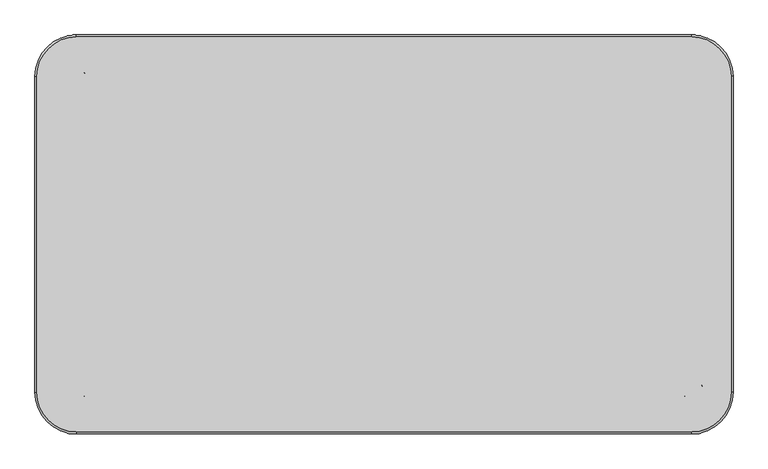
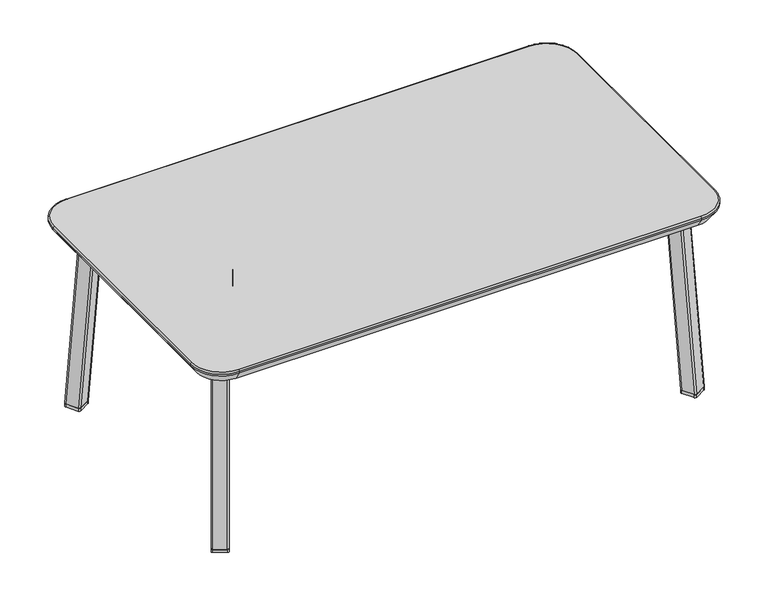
"""IFC4 building model written with IfcOpenShell, lengths in millimetres: furniture geometry, Stance_HC-Jensen-Occasional-Table : JETF244216-T."""

from ifc_helpers import new_model, si_unit, point, frame, frame_2d, origin, origin_with_axes, place, context, project, spatial, polyline, circle_curve, ellipse_curve, trimmed, segment, composite_curve, outline, extrude, source, transform, mapped, element, save
from ifc_brep_helpers import plane_surface, cylinder_surface, revolved_surface, extruded_surface, advanced_brep


def furniture_d7f64a44(model_context):
    return source(origin(), model_context, "Body", "SolidModel", [
        extrude(outline(composite_curve([segment(polyline([(499.481574, -260.4321033), (477.4845247, -273.1321056)]), True, "CONTINUOUS"), segment(trimmed(circle_curve(frame_2d((475.8970247, -270.382475)), 3.175), [point((477.4845247, -273.1321056))], [point((473.147394, -271.969975))], False, "CARTESIAN"), True, "CONTINUOUS"), segment(polyline([(473.147394, -271.969975), (460.3983038, -249.887903)]), True, "CONTINUOUS"), segment(trimmed(circle_curve(frame_2d((463.1479345, -248.300403)), 3.175), [point((460.3983038, -249.887903))], [point((461.5604345, -245.5507723))], False, "CARTESIAN"), True, "CONTINUOUS"), segment(polyline([(461.5604345, -245.5507723), (483.5574838, -232.85077)]), True, "CONTINUOUS"), segment(trimmed(circle_curve(frame_2d((485.1449838, -235.6004007)), 3.175), [point((483.5574838, -232.85077))], [point((487.8946144, -234.0129007))], False, "CARTESIAN"), True, "CONTINUOUS"), segment(polyline([(487.8946144, -234.0129007), (500.6437046, -256.0949726)]), True, "CONTINUOUS"), segment(trimmed(circle_curve(frame_2d((497.894074, -257.6824726)), 3.175), [point((500.6437046, -256.0949726))], [point((499.481574, -260.4321033))], False, "CARTESIAN"), True, "CONTINUOUS")], self_intersect=False)), origin_with_axes(), (0.0, 0.0, 1.0), 6.35),
        extrude(outline(composite_curve([segment(polyline([(477.4845247, 273.1321056), (499.481574, 260.4321033)]), True, "CONTINUOUS"), segment(trimmed(circle_curve(frame_2d((497.894074, 257.6824726)), 3.175), [point((499.481574, 260.4321033))], [point((500.6437046, 256.0949726))], False, "CARTESIAN"), True, "CONTINUOUS"), segment(polyline([(500.6437046, 256.0949726), (487.8946144, 234.0129007)]), True, "CONTINUOUS"), segment(trimmed(circle_curve(frame_2d((485.1449838, 235.6004007)), 3.175), [point((487.8946144, 234.0129007))], [point((483.5574838, 232.85077))], False, "CARTESIAN"), True, "CONTINUOUS"), segment(polyline([(483.5574838, 232.85077), (461.5604345, 245.5507723)]), True, "CONTINUOUS"), segment(trimmed(circle_curve(frame_2d((463.1479345, 248.300403)), 3.175), [point((461.5604345, 245.5507723))], [point((460.3983038, 249.887903))], False, "CARTESIAN"), True, "CONTINUOUS"), segment(polyline([(460.3983038, 249.887903), (473.147394, 271.969975)]), True, "CONTINUOUS"), segment(trimmed(circle_curve(frame_2d((475.8970247, 270.382475)), 3.175), [point((473.147394, 271.969975))], [point((477.4845247, 273.1321056))], False, "CARTESIAN"), True, "CONTINUOUS")], self_intersect=False)), origin_with_axes(), (0.0, 0.0, 1.0), 6.35),
        advanced_brep(
        [(446.7120024, -219.8325373, 380.5094413), (445.5498717, -224.1696679, 380.5094413), (458.2989619, -246.2517399, 380.5094413), (462.6360926, -247.4138706, 380.5094413), (484.6331418, -234.7138683, 380.5094413), (485.7952725, -230.3767376, 380.5094413), (473.0461823, -208.2946656, 380.5094413), (468.7090516, -207.132535, 380.5094413), (461.5604345, -245.5507723, 6.35), (483.5574838, -232.85077, 6.35), (487.8946144, -234.0129007, 6.35), (500.6437046, -256.0949726, 6.35), (499.481574, -260.4321033, 6.35), (477.4845247, -273.1321056, 6.35), (473.147394, -271.969975, 6.35), (460.3983038, -249.887903, 6.35)],
        [
            (0, 1, circle_curve(frame((448.2995024, -222.5821679, 380.5094413), z_axis=(0.0, 0.0, 1.0), x_axis=(-1.0, 0.0, 0.0)), 3.175)),
            (1, 2),
            (2, 3, circle_curve(frame((461.0485926, -244.6642399, 380.5094413), z_axis=(0.0, 0.0, 1.0), x_axis=(-1.0, 0.0, 0.0)), 3.175)),
            (3, 4),
            (4, 5, circle_curve(frame((483.0456418, -231.9642376, 380.5094413), z_axis=(0.0, 0.0, 1.0), x_axis=(-1.0, 0.0, 0.0)), 3.175)),
            (5, 6),
            (6, 7, circle_curve(frame((470.2965516, -209.8821656, 380.5094413), z_axis=(0.0, 0.0, 1.0), x_axis=(-1.0, 0.0, 0.0)), 3.175)),
            (7, 0),
            (8, 9),
            (9, 10, circle_curve(frame((485.1449838, -235.6004007, 6.35), z_axis=(0.0, 0.0, -1.0), x_axis=(-1.0, 0.0, 0.0)), 3.175)),
            (10, 11),
            (11, 12, circle_curve(frame((497.894074, -257.6824726, 6.35), z_axis=(0.0, 0.0, -1.0), x_axis=(-1.0, 0.0, 0.0)), 3.175)),
            (12, 13),
            (13, 14, circle_curve(frame((475.8970247, -270.382475, 6.35), z_axis=(0.0, 0.0, -1.0), x_axis=(-1.0, 0.0, 0.0)), 3.175)),
            (14, 15),
            (15, 8, circle_curve(frame((463.1479345, -248.300403, 6.35), z_axis=(0.0, 0.0, -1.0), x_axis=(-1.0, 0.0, 0.0)), 3.175)),
            (15, 1),
            (0, 8),
            (14, 2),
            (13, 3),
            (12, 4),
            (11, 5),
            (10, 6),
            (9, 7),
        ],
        [
            plane_surface(frame((465.6725721, -227.2732028, 380.5094413), z_axis=(0.0, 0.0, 1.0), x_axis=(0.8660254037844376, 0.5000000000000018, 0.0))),
            plane_surface(frame((480.5210042, -252.9914378, 6.35), z_axis=(0.0, 0.0, -1.0), x_axis=(0.8660254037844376, 0.5000000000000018, 0.0))),
            extruded_surface(trimmed(circle_curve(frame((448.2995024, -222.5821679, 380.5094413), z_axis=(0.0, 0.0, -1.0), x_axis=(-1.0, 0.0, 0.0)), 3.175), [point((445.5498717, -224.1696679, 380.5094413))], [point((446.7120024, -219.8325373, 380.5094413))], True, "CARTESIAN"), (14.848432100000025, -25.718235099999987, -374.15944129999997), 375.3361041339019),
            plane_surface(frame((466.7728489, -260.928939, 6.35), z_axis=(-0.8660254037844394, -0.49999999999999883, -5.114262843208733e-09), x_axis=(-0.49999999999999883, 0.8660254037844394, 0.0))),
            extruded_surface(trimmed(circle_curve(frame((461.0485926, -244.6642399, 380.5094413), z_axis=(0.0, 0.0, -1.0), x_axis=(-1.0, 0.0, 0.0)), 3.175), [point((462.6360926, -247.4138706, 380.5094413))], [point((458.2989619, -246.2517399, 380.5094413))], True, "CARTESIAN"), (14.848432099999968, -25.718235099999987, -374.15944129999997), 375.3361041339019),
            plane_surface(frame((488.4830493, -266.7821045, 6.35), z_axis=(0.49843252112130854, -0.8633104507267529, 0.0791207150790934), x_axis=(-0.8660254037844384, -0.5000000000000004, 0.0))),
            extruded_surface(trimmed(circle_curve(frame((483.0456418, -231.9642376, 380.5094413), z_axis=(0.0, 0.0, -1.0), x_axis=(-1.0, 0.0, 0.0)), 3.175), [point((485.7952725, -230.3767376, 380.5094413))], [point((484.6331418, -234.7138683, 380.5094413))], True, "CARTESIAN"), (14.84843219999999, -25.718234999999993, -374.15944129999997), 375.3361041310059),
            plane_surface(frame((494.2691595, -245.0539367, 6.35), z_axis=(0.8660254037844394, 0.4999999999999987, 5.114262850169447e-09), x_axis=(0.4999999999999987, -0.8660254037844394, 0.0))),
            extruded_surface(trimmed(circle_curve(frame((470.2965516, -209.8821656, 380.5094413), z_axis=(0.0, 0.0, -1.0), x_axis=(-1.0, 0.0, 0.0)), 3.175), [point((468.7090516, -207.132535, 380.5094413))], [point((473.0461823, -208.2946656, 380.5094413))], True, "CARTESIAN"), (14.84843219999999, -25.718235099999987, -374.15944129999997), 375.336104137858),
            plane_surface(frame((472.5589591, -239.2007712, 6.35), z_axis=(-0.49843252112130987, 0.8633104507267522, -0.07912071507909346), x_axis=(0.8660254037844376, 0.5000000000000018, 0.0))),
        ],
        [
            (0, [[1, 2, 3, 4, 5, 6, 7, 8]]),
            (1, [[9, 10, 11, 12, 13, 14, 15, 16]]),
            (2, [[17, -1, 18, -16]]),
            (3, [[19, -2, -17, -15]]),
            (4, [[20, -3, -19, -14]]),
            (5, [[21, -4, -20, -13]]),
            (6, [[22, -5, -21, -12]]),
            (7, [[23, -6, -22, -11]]),
            (8, [[24, -7, -23, -10]]),
            (9, [[-18, -8, -24, -9]]),
        ],
    ),
        extrude(outline(polyline([(505.5820372, 251.9484113), (360.0453703, 0.0), (505.5820372, -251.9484113), (467.1068508, -274.1733992), (308.7320372, 0.0), (467.1068508, 274.1733992), (505.5820372, 251.9484113)])), frame((0.0, 0.0, 380.5094413), z_axis=(0.0, 0.0, 1.0), x_axis=(1.0, 0.0, 0.0)), (0.0, 0.0, 1.0), 3.1749879),
        advanced_brep(
        [(446.7120024, 219.8325373, 380.5094413), (468.7090516, 207.132535, 380.5094413), (473.0461823, 208.2946656, 380.5094413), (485.7952725, 230.3767376, 380.5094413), (484.6331418, 234.7138683, 380.5094413), (462.6360926, 247.4138706, 380.5094413), (458.2989619, 246.2517399, 380.5094413), (445.5498717, 224.1696679, 380.5094413), (461.5604345, 245.5507723, 6.35), (460.3983038, 249.887903, 6.35), (473.147394, 271.969975, 6.35), (477.4845247, 273.1321056, 6.35), (499.481574, 260.4321033, 6.35), (500.6437046, 256.0949726, 6.35), (487.8946144, 234.0129007, 6.35), (483.5574838, 232.85077, 6.35)],
        [
            (0, 1),
            (1, 2, circle_curve(frame((470.2965516, 209.8821656, 380.5094413), z_axis=(0.0, 0.0, 1.0), x_axis=(-1.0, 0.0, 0.0)), 3.175)),
            (2, 3),
            (3, 4, circle_curve(frame((483.0456418, 231.9642376, 380.5094413), z_axis=(0.0, 0.0, 1.0), x_axis=(-1.0, 0.0, 0.0)), 3.175)),
            (4, 5),
            (5, 6, circle_curve(frame((461.0485926, 244.6642399, 380.5094413), z_axis=(0.0, 0.0, 1.0), x_axis=(-1.0, 0.0, 0.0)), 3.175)),
            (6, 7),
            (7, 0, circle_curve(frame((448.2995024, 222.5821679, 380.5094413), z_axis=(0.0, 0.0, 1.0), x_axis=(-1.0, 0.0, 0.0)), 3.175)),
            (8, 9, circle_curve(frame((463.1479345, 248.300403, 6.35), z_axis=(0.0, 0.0, -1.0), x_axis=(-1.0, 0.0, 0.0)), 3.175)),
            (9, 10),
            (10, 11, circle_curve(frame((475.8970247, 270.382475, 6.35), z_axis=(0.0, 0.0, -1.0), x_axis=(-1.0, 0.0, 0.0)), 3.175)),
            (11, 12),
            (12, 13, circle_curve(frame((497.894074, 257.6824726, 6.35), z_axis=(0.0, 0.0, -1.0), x_axis=(-1.0, 0.0, 0.0)), 3.175)),
            (13, 14),
            (14, 15, circle_curve(frame((485.1449838, 235.6004007, 6.35), z_axis=(0.0, 0.0, -1.0), x_axis=(-1.0, 0.0, 0.0)), 3.175)),
            (15, 8),
            (8, 0),
            (7, 9),
            (6, 10),
            (5, 11),
            (4, 12),
            (3, 13),
            (2, 14),
            (1, 15),
        ],
        [
            plane_surface(frame((465.6725721, 227.2732028, 380.5094413), z_axis=(0.0, 0.0, 1.0), x_axis=(-0.8660254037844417, 0.49999999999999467, 0.0))),
            plane_surface(frame((480.5210042, 252.9914378, 6.35), z_axis=(0.0, 0.0, -1.0), x_axis=(-0.8660254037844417, 0.49999999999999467, 0.0))),
            extruded_surface(trimmed(circle_curve(frame((448.2995024, 222.5821679, 380.5094413), z_axis=(0.0, 0.0, -1.0), x_axis=(-1.0, 0.0, 0.0)), 3.175), [point((446.7120024, 219.8325373, 380.5094413))], [point((445.5498717, 224.1696679, 380.5094413))], True, "CARTESIAN"), (14.848432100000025, 25.718235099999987, -374.15944129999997), 375.3361041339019),
            plane_surface(frame((466.7728489, 260.928939, 6.35), z_axis=(-0.8660254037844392, 0.49999999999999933, -5.114262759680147e-09), x_axis=(0.49999999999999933, 0.8660254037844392, 0.0))),
            extruded_surface(trimmed(circle_curve(frame((461.0485926, 244.6642399, 380.5094413), z_axis=(0.0, 0.0, -1.0), x_axis=(-1.0, 0.0, 0.0)), 3.175), [point((458.2989619, 246.2517399, 380.5094413))], [point((462.6360926, 247.4138706, 380.5094413))], True, "CARTESIAN"), (14.848432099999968, 25.718235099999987, -374.15944129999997), 375.3361041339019),
            plane_surface(frame((488.4830493, 266.7821045, 6.35), z_axis=(0.4984325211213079, 0.8633104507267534, 0.07912071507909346), x_axis=(0.8660254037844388, -0.49999999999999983, 0.0))),
            extruded_surface(trimmed(circle_curve(frame((483.0456418, 231.9642376, 380.5094413), z_axis=(0.0, 0.0, -1.0), x_axis=(-1.0, 0.0, 0.0)), 3.175), [point((484.6331418, 234.7138683, 380.5094413))], [point((485.7952725, 230.3767376, 380.5094413))], True, "CARTESIAN"), (14.84843219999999, 25.718234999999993, -374.15944129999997), 375.3361041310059),
            plane_surface(frame((494.2691595, 245.0539367, 6.35), z_axis=(0.8660254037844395, -0.49999999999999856, 5.1142629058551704e-09), x_axis=(-0.49999999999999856, -0.8660254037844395, 0.0))),
            extruded_surface(trimmed(circle_curve(frame((470.2965516, 209.8821656, 380.5094413), z_axis=(0.0, 0.0, -1.0), x_axis=(-1.0, 0.0, 0.0)), 3.175), [point((473.0461823, 208.2946656, 380.5094413))], [point((468.7090516, 207.132535, 380.5094413))], True, "CARTESIAN"), (14.84843219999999, 25.718235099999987, -374.15944129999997), 375.336104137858),
            plane_surface(frame((472.5589591, 239.2007712, 6.35), z_axis=(-0.49843252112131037, -0.863310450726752, -0.07912071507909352), x_axis=(-0.8660254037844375, 0.5000000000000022, 0.0))),
        ],
        [
            (0, [[1, 2, 3, 4, 5, 6, 7, 8]]),
            (1, [[9, 10, 11, 12, 13, 14, 15, 16]]),
            (2, [[17, -8, 18, -9]]),
            (3, [[-18, -7, 19, -10]]),
            (4, [[-19, -6, 20, -11]]),
            (5, [[-20, -5, 21, -12]]),
            (6, [[-21, -4, 22, -13]]),
            (7, [[-22, -3, 23, -14]]),
            (8, [[-23, -2, 24, -15]]),
            (9, [[-24, -1, -17, -16]]),
        ],
    ),
        extrude(outline(composite_curve([segment(trimmed(circle_curve(frame_2d((-496.490244, -257.6824726)), 3.175), [point((-498.077744, -260.4321033))], [point((-499.2398747, -256.0949726))], False, "CARTESIAN"), True, "CONTINUOUS"), segment(polyline([(-499.2398747, -256.0949726), (-486.4907845, -234.0129007)]), True, "CONTINUOUS"), segment(trimmed(circle_curve(frame_2d((-483.7411538, -235.6004007)), 3.175), [point((-486.4907845, -234.0129007))], [point((-482.1536538, -232.85077))], False, "CARTESIAN"), True, "CONTINUOUS"), segment(polyline([(-482.1536538, -232.85077), (-460.1566046, -245.5507723)]), True, "CONTINUOUS"), segment(trimmed(circle_curve(frame_2d((-461.7441046, -248.300403)), 3.175), [point((-460.1566046, -245.5507723))], [point((-458.9944739, -249.887903))], False, "CARTESIAN"), True, "CONTINUOUS"), segment(polyline([(-458.9944739, -249.887903), (-471.7435641, -271.969975)]), True, "CONTINUOUS"), segment(trimmed(circle_curve(frame_2d((-474.4931948, -270.382475)), 3.175), [point((-471.7435641, -271.969975))], [point((-476.0806948, -273.1321056))], False, "CARTESIAN"), True, "CONTINUOUS"), segment(polyline([(-476.0806948, -273.1321056), (-498.077744, -260.4321033)]), True, "CONTINUOUS")], self_intersect=False)), origin_with_axes(), (0.0, 0.0, 1.0), 6.35),
        extrude(outline(composite_curve([segment(trimmed(circle_curve(frame_2d((-474.4931948, 270.382475)), 3.175), [point((-476.0806948, 273.1321056))], [point((-471.7435641, 271.969975))], False, "CARTESIAN"), True, "CONTINUOUS"), segment(polyline([(-471.7435641, 271.969975), (-458.9944739, 249.887903)]), True, "CONTINUOUS"), segment(trimmed(circle_curve(frame_2d((-461.7441046, 248.300403)), 3.175), [point((-458.9944739, 249.887903))], [point((-460.1566046, 245.5507723))], False, "CARTESIAN"), True, "CONTINUOUS"), segment(polyline([(-460.1566046, 245.5507723), (-482.1536538, 232.85077)]), True, "CONTINUOUS"), segment(trimmed(circle_curve(frame_2d((-483.7411538, 235.6004007)), 3.175), [point((-482.1536538, 232.85077))], [point((-486.4907845, 234.0129007))], False, "CARTESIAN"), True, "CONTINUOUS"), segment(polyline([(-486.4907845, 234.0129007), (-499.2398747, 256.0949726)]), True, "CONTINUOUS"), segment(trimmed(circle_curve(frame_2d((-496.490244, 257.6824726)), 3.175), [point((-499.2398747, 256.0949726))], [point((-498.077744, 260.4321033))], False, "CARTESIAN"), True, "CONTINUOUS"), segment(polyline([(-498.077744, 260.4321033), (-476.0806948, 273.1321056)]), True, "CONTINUOUS")], self_intersect=False)), origin_with_axes(), (0.0, 0.0, 1.0), 6.35),
        advanced_brep(
        [(-445.3081724, -219.8325373, 380.5094413), (-467.3052217, -207.132535, 380.5094413), (-471.6423524, -208.2946656, 380.5094413), (-484.3914426, -230.3767376, 380.5094413), (-483.2293119, -234.7138683, 380.5094413), (-461.2322626, -247.4138706, 380.5094413), (-456.895132, -246.2517399, 380.5094413), (-444.1460418, -224.1696679, 380.5094413), (-460.1566046, -245.5507723, 6.35), (-458.9944739, -249.887903, 6.35), (-471.7435641, -271.969975, 6.35), (-476.0806948, -273.1321056, 6.35), (-498.077744, -260.4321033, 6.35), (-499.2398747, -256.0949726, 6.35), (-486.4907845, -234.0129007, 6.35), (-482.1536538, -232.85077, 6.35)],
        [
            (0, 1),
            (1, 2, circle_curve(frame((-468.8927217, -209.8821656, 380.5094413), z_axis=(0.0, 0.0, 1.0), x_axis=(1.0, 0.0, 0.0)), 3.175)),
            (2, 3),
            (3, 4, circle_curve(frame((-481.6418119, -231.9642376, 380.5094413), z_axis=(0.0, 0.0, 1.0), x_axis=(1.0, 0.0, 0.0)), 3.175)),
            (4, 5),
            (5, 6, circle_curve(frame((-459.6447626, -244.6642399, 380.5094413), z_axis=(0.0, 0.0, 1.0), x_axis=(1.0, 0.0, 0.0)), 3.175)),
            (6, 7),
            (7, 0, circle_curve(frame((-446.8956724, -222.5821679, 380.5094413), z_axis=(0.0, 0.0, 1.0), x_axis=(1.0, 0.0, 0.0)), 3.175)),
            (8, 9, circle_curve(frame((-461.7441046, -248.300403, 6.35), z_axis=(0.0, 0.0, -1.0), x_axis=(1.0, 0.0, 0.0)), 3.175)),
            (9, 10),
            (10, 11, circle_curve(frame((-474.4931948, -270.382475, 6.35), z_axis=(0.0, 0.0, -1.0), x_axis=(1.0, 0.0, 0.0)), 3.175)),
            (11, 12),
            (12, 13, circle_curve(frame((-496.490244, -257.6824726, 6.35), z_axis=(0.0, 0.0, -1.0), x_axis=(1.0, 0.0, 0.0)), 3.175)),
            (13, 14),
            (14, 15, circle_curve(frame((-483.7411538, -235.6004007, 6.35), z_axis=(0.0, 0.0, -1.0), x_axis=(1.0, 0.0, 0.0)), 3.175)),
            (15, 8),
            (8, 0),
            (7, 9),
            (6, 10),
            (5, 11),
            (4, 12),
            (3, 13),
            (2, 14),
            (1, 15),
        ],
        [
            plane_surface(frame((-464.2687422, -227.2732028, 380.5094413), z_axis=(0.0, 0.0, 1.0), x_axis=(-0.8660254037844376, 0.5000000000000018, 0.0))),
            plane_surface(frame((-479.1171743, -252.9914378, 6.35), z_axis=(0.0, 0.0, -1.0), x_axis=(-0.8660254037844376, 0.5000000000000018, 0.0))),
            extruded_surface(trimmed(circle_curve(frame((-461.7441046, -248.300403, 6.35), z_axis=(0.0, 0.0, 1.0), x_axis=(1.0, 0.0, 0.0)), 3.175), [point((-458.9944739, -249.887903, 6.35))], [point((-460.1566046, -245.5507723, 6.35))], True, "CARTESIAN"), (14.84843219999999, 25.718235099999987, 374.15944129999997), 375.336104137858),
            plane_surface(frame((-465.369019, -260.928939, 6.35), z_axis=(0.8660254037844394, -0.49999999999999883, -5.114262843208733e-09), x_axis=(0.49999999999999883, 0.8660254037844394, 0.0))),
            extruded_surface(trimmed(circle_curve(frame((-474.4931948, -270.382475, 6.35), z_axis=(0.0, 0.0, 1.0), x_axis=(1.0, 0.0, 0.0)), 3.175), [point((-476.0806948, -273.1321056, 6.35))], [point((-471.7435641, -271.969975, 6.35))], True, "CARTESIAN"), (14.848432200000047, 25.718235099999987, 374.15944129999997), 375.336104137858),
            plane_surface(frame((-487.0792194, -266.7821045, 6.35), z_axis=(-0.49843252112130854, -0.8633104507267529, 0.0791207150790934), x_axis=(0.8660254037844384, -0.5000000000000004, 0.0))),
            extruded_surface(trimmed(circle_curve(frame((-496.490244, -257.6824726, 6.35), z_axis=(0.0, 0.0, 1.0), x_axis=(1.0, 0.0, 0.0)), 3.175), [point((-499.2398747, -256.0949726, 6.35))], [point((-498.077744, -260.4321033, 6.35))], True, "CARTESIAN"), (14.848432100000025, 25.718234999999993, 374.15944129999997), 375.3361041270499),
            plane_surface(frame((-492.8653296, -245.0539367, 6.35), z_axis=(-0.8660254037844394, 0.4999999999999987, 5.114262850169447e-09), x_axis=(-0.4999999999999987, -0.8660254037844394, 0.0))),
            extruded_surface(trimmed(circle_curve(frame((-483.7411538, -235.6004007, 6.35), z_axis=(0.0, 0.0, 1.0), x_axis=(1.0, 0.0, 0.0)), 3.175), [point((-482.1536538, -232.85077, 6.35))], [point((-486.4907845, -234.0129007, 6.35))], True, "CARTESIAN"), (14.848432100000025, 25.718235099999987, 374.15944129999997), 375.3361041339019),
            plane_surface(frame((-471.1551292, -239.2007712, 6.35), z_axis=(0.49843252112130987, 0.8633104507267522, -0.07912071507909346), x_axis=(-0.8660254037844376, 0.5000000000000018, 0.0))),
        ],
        [
            (0, [[1, 2, 3, 4, 5, 6, 7, 8]]),
            (1, [[9, 10, 11, 12, 13, 14, 15, 16]]),
            (2, [[-9, 17, -8, 18]]),
            (3, [[-10, -18, -7, 19]]),
            (4, [[-11, -19, -6, 20]]),
            (5, [[-12, -20, -5, 21]]),
            (6, [[-13, -21, -4, 22]]),
            (7, [[-14, -22, -3, 23]]),
            (8, [[-15, -23, -2, 24]]),
            (9, [[-16, -24, -1, -17]]),
        ],
    ),
        extrude(outline(polyline([(-504.1782073, 251.9484113), (-465.7030209, 274.1733992), (-307.3282073, 0.0), (-465.7030209, -274.1733992), (-504.1782073, -251.9484113), (-358.6415404, 0.0), (-504.1782073, 251.9484113)])), frame((0.0, 0.0, 380.5094413), z_axis=(0.0, 0.0, 1.0), x_axis=(1.0, 0.0, 0.0)), (0.0, 0.0, 1.0), 3.1749879),
        advanced_brep(
        [(-445.3081724, 219.8325373, 380.5094413), (-444.1460418, 224.1696679, 380.5094413), (-456.895132, 246.2517399, 380.5094413), (-461.2322626, 247.4138706, 380.5094413), (-483.2293119, 234.7138683, 380.5094413), (-484.3914426, 230.3767376, 380.5094413), (-471.6423524, 208.2946656, 380.5094413), (-467.3052217, 207.132535, 380.5094413), (-460.1566046, 245.5507723, 6.35), (-482.1536538, 232.85077, 6.35), (-486.4907845, 234.0129007, 6.35), (-499.2398747, 256.0949726, 6.35), (-498.077744, 260.4321033, 6.35), (-476.0806948, 273.1321056, 6.35), (-471.7435641, 271.969975, 6.35), (-458.9944739, 249.887903, 6.35)],
        [
            (0, 1, circle_curve(frame((-446.8956724, 222.5821679, 380.5094413), z_axis=(0.0, 0.0, 1.0), x_axis=(1.0, 0.0, 0.0)), 3.175)),
            (1, 2),
            (2, 3, circle_curve(frame((-459.6447626, 244.6642399, 380.5094413), z_axis=(0.0, 0.0, 1.0), x_axis=(1.0, 0.0, 0.0)), 3.175)),
            (3, 4),
            (4, 5, circle_curve(frame((-481.6418119, 231.9642376, 380.5094413), z_axis=(0.0, 0.0, 1.0), x_axis=(1.0, 0.0, 0.0)), 3.175)),
            (5, 6),
            (6, 7, circle_curve(frame((-468.8927217, 209.8821656, 380.5094413), z_axis=(0.0, 0.0, 1.0), x_axis=(1.0, 0.0, 0.0)), 3.175)),
            (7, 0),
            (8, 9),
            (9, 10, circle_curve(frame((-483.7411538, 235.6004007, 6.35), z_axis=(0.0, 0.0, -1.0), x_axis=(1.0, 0.0, 0.0)), 3.175)),
            (10, 11),
            (11, 12, circle_curve(frame((-496.490244, 257.6824726, 6.35), z_axis=(0.0, 0.0, -1.0), x_axis=(1.0, 0.0, 0.0)), 3.175)),
            (12, 13),
            (13, 14, circle_curve(frame((-474.4931948, 270.382475, 6.35), z_axis=(0.0, 0.0, -1.0), x_axis=(1.0, 0.0, 0.0)), 3.175)),
            (14, 15),
            (15, 8, circle_curve(frame((-461.7441046, 248.300403, 6.35), z_axis=(0.0, 0.0, -1.0), x_axis=(1.0, 0.0, 0.0)), 3.175)),
            (15, 1),
            (0, 8),
            (14, 2),
            (13, 3),
            (12, 4),
            (11, 5),
            (10, 6),
            (9, 7),
        ],
        [
            plane_surface(frame((-464.2687422, 227.2732028, 380.5094413), z_axis=(0.0, 0.0, 1.0), x_axis=(0.8660254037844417, 0.49999999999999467, 0.0))),
            plane_surface(frame((-479.1171743, 252.9914378, 6.35), z_axis=(0.0, 0.0, -1.0), x_axis=(0.8660254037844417, 0.49999999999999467, 0.0))),
            extruded_surface(trimmed(circle_curve(frame((-461.7441046, 248.300403, 6.35), z_axis=(0.0, 0.0, 1.0), x_axis=(1.0, 0.0, 0.0)), 3.175), [point((-460.1566046, 245.5507723, 6.35))], [point((-458.9944739, 249.887903, 6.35))], True, "CARTESIAN"), (14.84843219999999, -25.718235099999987, 374.15944129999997), 375.336104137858),
            plane_surface(frame((-465.369019, 260.928939, 6.35), z_axis=(0.8660254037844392, 0.49999999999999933, -5.114262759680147e-09), x_axis=(-0.49999999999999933, 0.8660254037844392, 0.0))),
            extruded_surface(trimmed(circle_curve(frame((-474.4931948, 270.382475, 6.35), z_axis=(0.0, 0.0, 1.0), x_axis=(1.0, 0.0, 0.0)), 3.175), [point((-471.7435641, 271.969975, 6.35))], [point((-476.0806948, 273.1321056, 6.35))], True, "CARTESIAN"), (14.848432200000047, -25.718235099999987, 374.15944129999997), 375.336104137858),
            plane_surface(frame((-487.0792194, 266.7821045, 6.35), z_axis=(-0.4984325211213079, 0.8633104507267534, 0.07912071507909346), x_axis=(-0.8660254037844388, -0.49999999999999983, 0.0))),
            extruded_surface(trimmed(circle_curve(frame((-496.490244, 257.6824726, 6.35), z_axis=(0.0, 0.0, 1.0), x_axis=(1.0, 0.0, 0.0)), 3.175), [point((-498.077744, 260.4321033, 6.35))], [point((-499.2398747, 256.0949726, 6.35))], True, "CARTESIAN"), (14.848432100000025, -25.718234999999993, 374.15944129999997), 375.3361041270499),
            plane_surface(frame((-492.8653296, 245.0539367, 6.35), z_axis=(-0.8660254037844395, -0.49999999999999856, 5.1142629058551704e-09), x_axis=(0.49999999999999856, -0.8660254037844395, 0.0))),
            extruded_surface(trimmed(circle_curve(frame((-483.7411538, 235.6004007, 6.35), z_axis=(0.0, 0.0, 1.0), x_axis=(1.0, 0.0, 0.0)), 3.175), [point((-486.4907845, 234.0129007, 6.35))], [point((-482.1536538, 232.85077, 6.35))], True, "CARTESIAN"), (14.848432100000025, -25.718235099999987, 374.15944129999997), 375.3361041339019),
            plane_surface(frame((-471.1551292, 239.2007712, 6.35), z_axis=(0.49843252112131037, -0.863310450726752, -0.07912071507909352), x_axis=(0.8660254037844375, 0.5000000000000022, 0.0))),
        ],
        [
            (0, [[1, 2, 3, 4, 5, 6, 7, 8]]),
            (1, [[9, 10, 11, 12, 13, 14, 15, 16]]),
            (2, [[-16, 17, -1, 18]]),
            (3, [[-15, 19, -2, -17]]),
            (4, [[-14, 20, -3, -19]]),
            (5, [[-13, 21, -4, -20]]),
            (6, [[-12, 22, -5, -21]]),
            (7, [[-11, 23, -6, -22]]),
            (8, [[-10, 24, -7, -23]]),
            (9, [[-9, -18, -8, -24]]),
        ],
    ),
        advanced_brep(
        [(533.4, -241.3, 405.9094413), (469.9, -304.8, 405.9094413), (469.9, -304.8, 402.7343928), (533.4, -241.3, 402.7343928), (469.9, -291.4610718, 383.6844292), (520.0610718, -241.3, 383.6844292), (533.4, 241.3, 402.7343928), (533.4, 241.3, 405.9094413), (520.0610718, 241.3, 383.6844292), (469.9, 304.8, 402.7343928), (469.9, 304.8, 405.9094413), (469.9, 291.4610718, 383.6844292), (-469.9, 304.8, 402.7343928), (-469.9, 304.8, 405.9094413), (-469.9, 291.4610718, 383.6844292), (-533.4, 241.3, 402.7343928), (-533.4, 241.3, 405.9094413), (-520.0610718, 241.3, 383.6844292), (-533.4, -241.3, 402.7343928), (-533.4, -241.3, 405.9094413), (-520.0610718, -241.3, 383.6844292), (-469.9, -304.8, 402.7343928), (-469.9, -304.8, 405.9094413), (-469.9, -291.4610718, 383.6844292), (-530.225, 241.3, 409.0844413), (-530.225, -241.3, 409.0844413), (-469.9, -301.625, 409.0844413), (469.9, -301.625, 409.0844413), (530.225, -241.3, 409.0844413), (530.225, 241.3, 409.0844413), (469.9, 301.625, 409.0844413), (-469.9, 301.625, 409.0844413)],
        [
            (0, 1, circle_curve(frame((469.9, -241.3, 405.9094413), z_axis=(0.0, 0.0, -1.0), x_axis=(0.0, -1.0, 0.0)), 63.5)),
            (1, 2),
            (2, 3, circle_curve(frame((469.9, -241.3, 402.7343928), z_axis=(0.0, 0.0, 1.0), x_axis=(0.0, -1.0, 0.0)), 63.5)),
            (3, 0),
            (2, 4),
            (4, 5, circle_curve(frame((469.9, -241.3, 383.6844292), z_axis=(0.0, 0.0, 1.0), x_axis=(0.0, -1.0, 0.0)), 50.1610718)),
            (5, 3),
            (3, 6),
            (6, 7),
            (7, 0),
            (5, 8),
            (8, 6),
            (6, 9, circle_curve(frame((469.9, 241.3, 402.7343928), z_axis=(0.0, 0.0, 1.0), x_axis=(1.0, 0.0, 0.0)), 63.5)),
            (9, 10),
            (10, 7, circle_curve(frame((469.9, 241.3, 405.9094413), z_axis=(0.0, 0.0, -1.0), x_axis=(1.0, 0.0, 0.0)), 63.5)),
            (8, 11, circle_curve(frame((469.9, 241.3, 383.6844292), z_axis=(0.0, 0.0, 1.0), x_axis=(1.0, 0.0, 0.0)), 50.1610718)),
            (11, 9),
            (9, 12),
            (12, 13),
            (13, 10),
            (11, 14),
            (14, 12),
            (12, 15, circle_curve(frame((-469.9, 241.3, 402.7343928), z_axis=(0.0, 0.0, 1.0), x_axis=(0.0, 1.0, 0.0)), 63.5)),
            (15, 16),
            (16, 13, circle_curve(frame((-469.9, 241.3, 405.9094413), z_axis=(0.0, 0.0, -1.0), x_axis=(0.0, 1.0, 0.0)), 63.5)),
            (14, 17, circle_curve(frame((-469.9, 241.3, 383.6844292), z_axis=(0.0, 0.0, 1.0), x_axis=(0.0, 1.0, 0.0)), 50.1610718)),
            (17, 15),
            (15, 18),
            (18, 19),
            (19, 16),
            (17, 20),
            (20, 18),
            (18, 21, circle_curve(frame((-469.9, -241.3, 402.7343928), z_axis=(0.0, 0.0, 1.0), x_axis=(-1.0, 0.0, 0.0)), 63.5)),
            (21, 22),
            (22, 19, circle_curve(frame((-469.9, -241.3, 405.9094413), z_axis=(0.0, 0.0, -1.0), x_axis=(-1.0, 0.0, 0.0)), 63.5)),
            (20, 23, circle_curve(frame((-469.9, -241.3, 383.6844292), z_axis=(0.0, 0.0, 1.0), x_axis=(-1.0, 0.0, 0.0)), 50.1610718)),
            (23, 21),
            (1, 22),
            (21, 2),
            (24, 25),
            (25, 26, circle_curve(frame((-469.9, -241.3, 409.0844413), z_axis=(0.0, 0.0, 1.0), x_axis=(-1.0, 0.0, 0.0)), 60.325)),
            (26, 27),
            (27, 28, circle_curve(frame((469.9, -241.3, 409.0844413), z_axis=(0.0, 0.0, 1.0), x_axis=(0.0, -1.0, 0.0)), 60.325)),
            (28, 29),
            (29, 30, circle_curve(frame((469.9, 241.3, 409.0844413), z_axis=(0.0, 0.0, 1.0), x_axis=(1.0, 0.0, 0.0)), 60.325)),
            (30, 31),
            (31, 24, circle_curve(frame((-469.9, 241.3, 409.0844413), z_axis=(0.0, 0.0, 1.0), x_axis=(0.0, 1.0, 0.0)), 60.325)),
            (4, 23),
            (0, 28, circle_curve(frame((530.225, -241.3, 405.9094413), z_axis=(0.0, -1.0, 0.0), x_axis=(-1.0, 0.0, 0.0)), 3.175)),
            (27, 1, circle_curve(frame((469.9, -301.625, 405.9094413), z_axis=(1.0, 0.0, 0.0), x_axis=(0.0, 1.0, 0.0)), 3.175)),
            (7, 29, circle_curve(frame((530.225, 241.3, 405.9094413), z_axis=(0.0, -1.0, 0.0), x_axis=(-1.0, 0.0, 0.0)), 3.175)),
            (10, 30, circle_curve(frame((469.9, 301.625, 405.9094413), z_axis=(1.0, 0.0, 0.0), x_axis=(0.0, -1.0, 0.0)), 3.175)),
            (13, 31, circle_curve(frame((-469.9, 301.625, 405.9094413), z_axis=(1.0, 0.0, 0.0), x_axis=(0.0, -1.0, 0.0)), 3.175)),
            (16, 24, circle_curve(frame((-530.225, 241.3, 405.9094413), z_axis=(0.0, 1.0, 0.0), x_axis=(1.0, 0.0, 0.0)), 3.175)),
            (19, 25, circle_curve(frame((-530.225, -241.3, 405.9094413), z_axis=(0.0, 1.0, 0.0), x_axis=(1.0, 0.0, 0.0)), 3.175)),
            (22, 26, circle_curve(frame((-469.9, -301.625, 405.9094413), z_axis=(-1.0, 0.0, 0.0), x_axis=(0.0, 1.0, 0.0)), 3.175)),
        ],
        [
            cylinder_surface(frame((469.9, -241.3, 409.0844413), z_axis=(0.0, 0.0, 1.0), x_axis=(0.0, -1.0, 0.0)), 63.5),
            revolved_surface(polyline([(469.9, -291.4610718, 383.6844292), (469.9, -304.8, 402.7343928)]), (469.9, -241.3, 409.0844413), (0.0, 0.0, 1.0)),
            plane_surface(frame((533.4, -241.3, 402.7343928), z_axis=(1.0, 0.0, 0.0), x_axis=(0.0, 1.0, 0.0))),
            plane_surface(frame((520.0610718, -241.3, 383.6844292), z_axis=(0.8191520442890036, 0.0, -0.5735764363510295), x_axis=(0.0, 1.0, 0.0))),
            cylinder_surface(frame((469.9, 241.3, 409.0844413), z_axis=(0.0, 0.0, 1.0), x_axis=(1.0, 0.0, 0.0)), 63.5),
            revolved_surface(polyline([(520.0610718, 241.3, 383.6844292), (533.4, 241.3, 402.7343928)]), (469.9, 241.3, 409.0844413), (0.0, 0.0, 1.0)),
            plane_surface(frame((469.9, 304.8, 402.7343928), z_axis=(0.0, 1.0, 0.0), x_axis=(-1.0, 0.0, 0.0))),
            plane_surface(frame((469.9, 291.4610718, 383.6844292), z_axis=(0.0, 0.8191520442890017, -0.5735764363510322), x_axis=(-1.0, 0.0, 0.0))),
            cylinder_surface(frame((-469.9, 241.3, 409.0844413), z_axis=(0.0, 0.0, 1.0), x_axis=(0.0, 1.0, 0.0)), 63.5),
            revolved_surface(polyline([(-469.9, 291.4610718, 383.6844292), (-469.9, 304.8, 402.7343928)]), (-469.9, 241.3, 409.0844413), (0.0, 0.0, 1.0)),
            plane_surface(frame((-533.4, 241.3, 402.7343928), z_axis=(-1.0, 0.0, 0.0), x_axis=(0.0, -1.0, 0.0))),
            plane_surface(frame((-520.0610718, 241.3, 383.6844292), z_axis=(-0.8191520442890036, 0.0, -0.5735764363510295), x_axis=(0.0, -1.0, 0.0))),
            cylinder_surface(frame((-469.9, -241.3, 409.0844413), z_axis=(0.0, 0.0, 1.0), x_axis=(-1.0, 0.0, 0.0)), 63.5),
            revolved_surface(polyline([(-520.0610718, -241.3, 383.6844292), (-533.4, -241.3, 402.7343928)]), (-469.9, -241.3, 409.0844413), (0.0, 0.0, 1.0)),
            plane_surface(frame((-469.9, -304.8, 402.7343928), z_axis=(0.0, -1.0, 0.0), x_axis=(1.0, 0.0, 0.0))),
            plane_surface(frame((-469.9, -301.625, 409.0844413), z_axis=(0.0, 0.0, 1.0), x_axis=(1.0, 0.0, 0.0))),
            plane_surface(frame((-469.9, -279.4000061, 383.6844292), z_axis=(0.0, 0.0, -1.0), x_axis=(1.0, 0.0, 0.0))),
            plane_surface(frame((-469.9, -291.4610718, 383.6844292), z_axis=(0.0, -0.8191520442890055, -0.5735764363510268), x_axis=(1.0, 0.0, 0.0))),
            revolved_surface(trimmed(ellipse_curve(frame((469.9, -301.625, 405.9094413), z_axis=(-1.0, 0.0, 0.0), x_axis=(0.0, 1.0, 0.0)), 3.175, 3.175), [point((469.9, -304.8, 405.9094413))], [point((469.9, -301.625, 409.0844413))], True, "CARTESIAN"), (469.9, -241.3, 409.0844413), (0.0, 0.0, 1.0)),
            cylinder_surface(frame((530.225, -241.3, 405.9094413), z_axis=(0.0, -1.0, 0.0), x_axis=(-1.0, 0.0, 0.0)), 3.175),
            revolved_surface(trimmed(ellipse_curve(frame((530.225, 241.3, 405.9094413), z_axis=(0.0, -1.0, 0.0), x_axis=(-1.0, 0.0, 0.0)), 3.175, 3.175), [point((533.4, 241.3, 405.9094413))], [point((530.225, 241.3, 409.0844413))], True, "CARTESIAN"), (469.9, 241.3, 409.0844413), (0.0, 0.0, 1.0)),
            cylinder_surface(frame((469.9, 301.625, 405.9094413), z_axis=(1.0, 0.0, 0.0), x_axis=(0.0, -1.0, 0.0)), 3.175),
            revolved_surface(trimmed(ellipse_curve(frame((-469.9, 301.625, 405.9094413), z_axis=(1.0, 0.0, 0.0), x_axis=(0.0, -1.0, 0.0)), 3.175, 3.175), [point((-469.9, 304.8, 405.9094413))], [point((-469.9, 301.625, 409.0844413))], True, "CARTESIAN"), (-469.9, 241.3, 409.0844413), (0.0, 0.0, 1.0)),
            cylinder_surface(frame((-530.225, 241.3, 405.9094413), z_axis=(0.0, 1.0, 0.0), x_axis=(1.0, 0.0, 0.0)), 3.175),
            revolved_surface(trimmed(ellipse_curve(frame((-530.225, -241.3, 405.9094413), z_axis=(0.0, 1.0, 0.0), x_axis=(1.0, 0.0, 0.0)), 3.175, 3.175), [point((-533.4, -241.3, 405.9094413))], [point((-530.225, -241.3, 409.0844413))], True, "CARTESIAN"), (-469.9, -241.3, 409.0844413), (0.0, 0.0, 1.0)),
            cylinder_surface(frame((-469.9, -301.625, 405.9094413), z_axis=(-1.0, 0.0, 0.0), x_axis=(0.0, 1.0, 0.0)), 3.175),
        ],
        [
            (0, [[1, 2, 3, 4]]),
            (1, [[-3, 5, 6, 7]]),
            (2, [[-4, 8, 9, 10]]),
            (3, [[-7, 11, 12, -8]]),
            (4, [[-9, 13, 14, 15]]),
            (5, [[-12, 16, 17, -13]]),
            (6, [[-14, 18, 19, 20]]),
            (7, [[-17, 21, 22, -18]]),
            (8, [[-19, 23, 24, 25]]),
            (9, [[-22, 26, 27, -23]]),
            (10, [[-24, 28, 29, 30]]),
            (11, [[-27, 31, 32, -28]]),
            (12, [[-29, 33, 34, 35]]),
            (13, [[-32, 36, 37, -33]]),
            (14, [[-2, 38, -34, 39]]),
            (15, [[40, 41, 42, 43, 44, 45, 46, 47]]),
            (16, [[-6, 48, -36, -31, -26, -21, -16, -11]]),
            (17, [[-5, -39, -37, -48]]),
            (18, [[-1, 49, -43, 50]]),
            (19, [[-10, 51, -44, -49]]),
            (20, [[-15, 52, -45, -51]]),
            (21, [[-20, 53, -46, -52]]),
            (22, [[-25, 54, -47, -53]]),
            (23, [[-30, 55, -40, -54]]),
            (24, [[-35, 56, -41, -55]]),
            (25, [[-38, -50, -42, -56]]),
        ],
    ),
    ])


if __name__ == "__main__":
    model = new_model("IFC4")
    model_context = context("Model", 3, world=origin())
    ifc_project = project(units=[si_unit("LENGTHUNIT", "METRE", prefix="MILLI")], contexts=[model_context])
    site = spatial("IfcSite", under=ifc_project)
    building = spatial("IfcBuilding", under=site)
    placement = place(None, origin())
    furniture_shape = furniture_d7f64a44(model_context)
    element("IfcFurniture", 1, ObjectType="Stance_HC-Jensen-Occasional-Table : JETF244216-T", at=placement, inside=building, context=model_context, shape_type="MappedRepresentation", body=[
        mapped(furniture_shape, transform((0.0, 0.0, 0.0), x_axis=(1.0, 0.0, 0.0), y_axis=(0.0, 1.0, 0.0), z_axis=(0.0, 0.0, 1.0))),
    ])
    save(model, "model.ifc")
